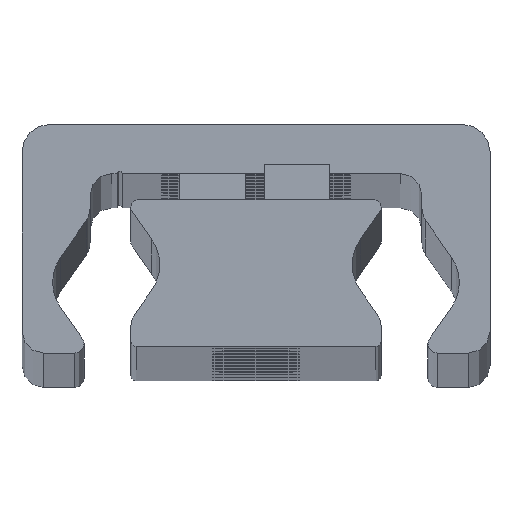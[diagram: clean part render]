
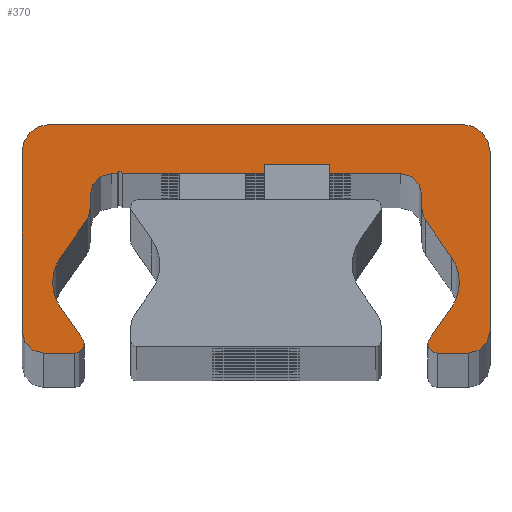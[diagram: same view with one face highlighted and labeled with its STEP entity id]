
A CAD part, top view. The second image highlights one B-rep face of the part: STEP entity #370.
In plain terms, the highlighted planar face has unit normal (0, 0, 1).
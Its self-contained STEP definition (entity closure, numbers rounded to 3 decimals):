
#370=ADVANCED_FACE('',(#1080),#1081,.T.);
#1080=FACE_OUTER_BOUND('',#1791,.T.);
#1081=PLANE('',#1792);
#1791=EDGE_LOOP('',(#4162,#4163,#4164,#4165,#4166,#4167,#4168,#4169,#4170,#4171,#4172,#4173,#4174,#4175,#4176,#4177,#4178,#4179,#4180,#4181,#4182,#4183,#4184,#4185,#4186,#4187,#4188,#4189,#4190,#4191));
#1792=AXIS2_PLACEMENT_3D('',#4192,#4193,#4194);
#4162=ORIENTED_EDGE('',*,*,#4649,.F.);
#4163=ORIENTED_EDGE('',*,*,#4982,.F.);
#4164=ORIENTED_EDGE('',*,*,#4635,.F.);
#4165=ORIENTED_EDGE('',*,*,#4981,.F.);
#4166=ORIENTED_EDGE('',*,*,#4977,.F.);
#4167=ORIENTED_EDGE('',*,*,#4974,.F.);
#4168=ORIENTED_EDGE('',*,*,#4971,.F.);
#4169=ORIENTED_EDGE('',*,*,#4968,.F.);
#4170=ORIENTED_EDGE('',*,*,#4965,.F.);
#4171=ORIENTED_EDGE('',*,*,#4962,.F.);
#4172=ORIENTED_EDGE('',*,*,#4959,.F.);
#4173=ORIENTED_EDGE('',*,*,#4956,.F.);
#4174=ORIENTED_EDGE('',*,*,#4953,.F.);
#4175=ORIENTED_EDGE('',*,*,#4950,.F.);
#4176=ORIENTED_EDGE('',*,*,#4641,.F.);
#4177=ORIENTED_EDGE('',*,*,#4948,.F.);
#4178=ORIENTED_EDGE('',*,*,#4643,.F.);
#4179=ORIENTED_EDGE('',*,*,#4947,.F.);
#4180=ORIENTED_EDGE('',*,*,#4943,.F.);
#4181=ORIENTED_EDGE('',*,*,#4940,.F.);
#4182=ORIENTED_EDGE('',*,*,#4937,.F.);
#4183=ORIENTED_EDGE('',*,*,#4934,.F.);
#4184=ORIENTED_EDGE('',*,*,#4931,.F.);
#4185=ORIENTED_EDGE('',*,*,#4928,.F.);
#4186=ORIENTED_EDGE('',*,*,#4925,.F.);
#4187=ORIENTED_EDGE('',*,*,#4922,.F.);
#4188=ORIENTED_EDGE('',*,*,#4919,.F.);
#4189=ORIENTED_EDGE('',*,*,#4916,.F.);
#4190=ORIENTED_EDGE('',*,*,#4913,.F.);
#4191=ORIENTED_EDGE('',*,*,#4910,.F.);
#4192=CARTESIAN_POINT('',(-0.023,14.187,882.0));
#4193=DIRECTION('',(0.0,0.0,1.0));
#4194=DIRECTION('',(1.0,0.0,0.0));
#4635=EDGE_CURVE('',#5630,#5633,#5634,.T.);
#4641=EDGE_CURVE('',#5643,#5639,#5645,.T.);
#4643=EDGE_CURVE('',#5646,#5649,#5650,.T.);
#4649=EDGE_CURVE('',#5659,#5655,#5661,.T.);
#4910=EDGE_CURVE('',#5655,#6080,#6081,.T.);
#4913=EDGE_CURVE('',#6080,#6085,#6086,.T.);
#4916=EDGE_CURVE('',#6085,#6090,#6091,.T.);
#4919=EDGE_CURVE('',#6090,#6095,#6096,.T.);
#4922=EDGE_CURVE('',#6095,#6100,#6101,.T.);
#4925=EDGE_CURVE('',#6100,#6105,#6106,.T.);
#4928=EDGE_CURVE('',#6105,#6110,#6111,.T.);
#4931=EDGE_CURVE('',#6110,#6115,#6116,.T.);
#4934=EDGE_CURVE('',#6115,#6120,#6121,.T.);
#4937=EDGE_CURVE('',#6120,#6125,#6126,.T.);
#4940=EDGE_CURVE('',#6125,#6130,#6131,.T.);
#4943=EDGE_CURVE('',#6130,#6135,#6136,.T.);
#4947=EDGE_CURVE('',#6135,#5646,#6141,.T.);
#4948=EDGE_CURVE('',#5649,#5643,#6142,.T.);
#4950=EDGE_CURVE('',#5639,#6144,#6145,.T.);
#4953=EDGE_CURVE('',#6144,#6149,#6150,.T.);
#4956=EDGE_CURVE('',#6149,#6154,#6155,.T.);
#4959=EDGE_CURVE('',#6154,#6159,#6160,.T.);
#4962=EDGE_CURVE('',#6159,#6164,#6165,.T.);
#4965=EDGE_CURVE('',#6164,#6169,#6170,.T.);
#4968=EDGE_CURVE('',#6169,#6174,#6175,.T.);
#4971=EDGE_CURVE('',#6174,#6179,#6180,.T.);
#4974=EDGE_CURVE('',#6179,#6184,#6185,.T.);
#4977=EDGE_CURVE('',#6184,#6189,#6190,.T.);
#4981=EDGE_CURVE('',#6189,#5630,#6195,.T.);
#4982=EDGE_CURVE('',#5633,#5659,#6196,.T.);
#5630=VERTEX_POINT('',#7042);
#5633=VERTEX_POINT('',#7046);
#5634=CIRCLE('',#7047,0.85);
#5639=VERTEX_POINT('',#7053);
#5643=VERTEX_POINT('',#7058);
#5645=CIRCLE('',#7061,0.85);
#5646=VERTEX_POINT('',#7062);
#5649=VERTEX_POINT('',#7066);
#5650=CIRCLE('',#7067,4.);
#5655=VERTEX_POINT('',#7073);
#5659=VERTEX_POINT('',#7078);
#5661=CIRCLE('',#7081,4.);
#6080=VERTEX_POINT('',#7618);
#6081=CIRCLE('',#7619,4.);
#6085=VERTEX_POINT('',#7624);
#6086=LINE('',#7625,#7626);
#6090=VERTEX_POINT('',#7632);
#6091=CIRCLE('',#7633,2.);
#6095=VERTEX_POINT('',#7638);
#6096=LINE('',#7639,#7640);
#6100=VERTEX_POINT('',#7646);
#6101=CIRCLE('',#7647,2.0);
#6105=VERTEX_POINT('',#7652);
#6106=LINE('',#7653,#7654);
#6110=VERTEX_POINT('',#7660);
#6111=CIRCLE('',#7661,0.25);
#6115=VERTEX_POINT('',#7666);
#6116=LINE('',#7667,#7668);
#6120=VERTEX_POINT('',#7674);
#6121=CIRCLE('',#7675,2.0);
#6125=VERTEX_POINT('',#7680);
#6126=LINE('',#7681,#7682);
#6130=VERTEX_POINT('',#7688);
#6131=CIRCLE('',#7689,2.0);
#6135=VERTEX_POINT('',#7694);
#6136=LINE('',#7695,#7696);
#6141=CIRCLE('',#7703,4.);
#6142=LINE('',#7704,#7705);
#6144=VERTEX_POINT('',#7708);
#6145=CIRCLE('',#7709,0.85);
#6149=VERTEX_POINT('',#7714);
#6150=LINE('',#7715,#7716);
#6154=VERTEX_POINT('',#7722);
#6155=CIRCLE('',#7723,2.);
#6159=VERTEX_POINT('',#7728);
#6160=LINE('',#7729,#7730);
#6164=VERTEX_POINT('',#7736);
#6165=CIRCLE('',#7737,2.5);
#6169=VERTEX_POINT('',#7742);
#6170=LINE('',#7743,#7744);
#6174=VERTEX_POINT('',#7750);
#6175=CIRCLE('',#7751,2.5);
#6179=VERTEX_POINT('',#7756);
#6180=LINE('',#7757,#7758);
#6184=VERTEX_POINT('',#7764);
#6185=CIRCLE('',#7765,2.);
#6189=VERTEX_POINT('',#7770);
#6190=LINE('',#7771,#7772);
#6195=CIRCLE('',#7779,0.85);
#6196=LINE('',#7780,#7781);
#7042=CARTESIAN_POINT('',(15.8,1.859,882.0));
#7046=CARTESIAN_POINT('',(15.922,2.298,882.0));
#7047=AXIS2_PLACEMENT_3D('',#8607,#8608,#8609);
#7053=CARTESIAN_POINT('',(-15.8,1.859,882.0));
#7058=CARTESIAN_POINT('',(-15.922,2.298,882.0));
#7061=AXIS2_PLACEMENT_3D('',#8619,#8620,#8621);
#7062=CARTESIAN_POINT('',(-18.688,7.509,882.0));
#7066=CARTESIAN_POINT('',(-17.964,5.214,882.0));
#7067=AXIS2_PLACEMENT_3D('',#8623,#8624,#8625);
#7073=CARTESIAN_POINT('',(18.688,7.509,882.0));
#7078=CARTESIAN_POINT('',(17.964,5.214,882.0));
#7081=AXIS2_PLACEMENT_3D('',#8635,#8636,#8637);
#7618=CARTESIAN_POINT('',(17.964,9.803,882.0));
#7619=AXIS2_PLACEMENT_3D('',#9182,#9183,#9184);
#7624=CARTESIAN_POINT('',(15.612,13.163,882.0));
#7625=CARTESIAN_POINT('',(15.612,13.163,882.0));
#7626=VECTOR('',#9189,1.0);
#7632=CARTESIAN_POINT('',(15.25,14.31,882.0));
#7633=AXIS2_PLACEMENT_3D('',#9192,#9193,#9194);
#7638=CARTESIAN_POINT('',(15.25,15.509,882.0));
#7639=CARTESIAN_POINT('',(15.25,15.509,882.0));
#7640=VECTOR('',#9199,1.0);
#7646=CARTESIAN_POINT('',(13.25,17.509,882.0));
#7647=AXIS2_PLACEMENT_3D('',#9202,#9203,#9204);
#7652=CARTESIAN_POINT('',(-12.25,17.509,882.0));
#7653=CARTESIAN_POINT('',(-12.25,17.509,882.0));
#7654=VECTOR('',#9209,1.0);
#7660=CARTESIAN_POINT('',(-12.75,17.509,882.0));
#7661=AXIS2_PLACEMENT_3D('',#9212,#9213,#9214);
#7666=CARTESIAN_POINT('',(-13.25,17.509,882.0));
#7667=CARTESIAN_POINT('',(-13.25,17.509,882.0));
#7668=VECTOR('',#9219,1.0);
#7674=CARTESIAN_POINT('',(-15.25,15.509,882.0));
#7675=AXIS2_PLACEMENT_3D('',#9222,#9223,#9224);
#7680=CARTESIAN_POINT('',(-15.25,14.31,882.0));
#7681=CARTESIAN_POINT('',(-15.25,14.31,882.0));
#7682=VECTOR('',#9229,1.0);
#7688=CARTESIAN_POINT('',(-15.612,13.163,882.0));
#7689=AXIS2_PLACEMENT_3D('',#9232,#9233,#9234);
#7694=CARTESIAN_POINT('',(-17.964,9.803,882.0));
#7695=CARTESIAN_POINT('',(-17.964,9.803,882.0));
#7696=VECTOR('',#9239,1.);
#7703=AXIS2_PLACEMENT_3D('',#9245,#9246,#9247);
#7704=CARTESIAN_POINT('',(-15.922,2.298,882.0));
#7705=VECTOR('',#9248,1.0);
#7708=CARTESIAN_POINT('',(-16.65,1.009,882.0));
#7709=AXIS2_PLACEMENT_3D('',#9250,#9251,#9252);
#7714=CARTESIAN_POINT('',(-19.5,1.009,882.0));
#7715=CARTESIAN_POINT('',(-19.5,1.009,882.0));
#7716=VECTOR('',#9257,1.0);
#7722=CARTESIAN_POINT('',(-21.5,3.009,882.0));
#7723=AXIS2_PLACEMENT_3D('',#9260,#9261,#9262);
#7728=CARTESIAN_POINT('',(-21.5,19.509,882.0));
#7729=CARTESIAN_POINT('',(-21.5,19.509,882.0));
#7730=VECTOR('',#9267,1.0);
#7736=CARTESIAN_POINT('',(-19.0,22.009,882.0));
#7737=AXIS2_PLACEMENT_3D('',#9270,#9271,#9272);
#7742=CARTESIAN_POINT('',(19.0,22.009,882.0));
#7743=CARTESIAN_POINT('',(19.0,22.009,882.0));
#7744=VECTOR('',#9277,1.0);
#7750=CARTESIAN_POINT('',(21.5,19.509,882.0));
#7751=AXIS2_PLACEMENT_3D('',#9280,#9281,#9282);
#7756=CARTESIAN_POINT('',(21.5,3.009,882.0));
#7757=CARTESIAN_POINT('',(21.5,3.009,882.0));
#7758=VECTOR('',#9287,1.0);
#7764=CARTESIAN_POINT('',(19.5,1.009,882.0));
#7765=AXIS2_PLACEMENT_3D('',#9290,#9291,#9292);
#7770=CARTESIAN_POINT('',(16.65,1.009,882.0));
#7771=CARTESIAN_POINT('',(16.65,1.009,882.0));
#7772=VECTOR('',#9297,1.0);
#7779=AXIS2_PLACEMENT_3D('',#9303,#9304,#9305);
#7780=CARTESIAN_POINT('',(17.964,5.214,882.0));
#7781=VECTOR('',#9306,1.0);
#8607=CARTESIAN_POINT('',(16.65,1.859,882.0));
#8608=DIRECTION('',(0.0,0.0,-1.0));
#8609=DIRECTION('',(1.0,0.0,0.0));
#8619=CARTESIAN_POINT('',(-16.65,1.859,882.0));
#8620=DIRECTION('',(0.0,0.0,-1.0));
#8621=DIRECTION('',(1.0,0.0,0.0));
#8623=CARTESIAN_POINT('',(-14.688,7.509,882.0));
#8624=DIRECTION('',(0.0,0.0,1.0));
#8625=DIRECTION('',(1.0,0.0,0.0));
#8635=CARTESIAN_POINT('',(14.688,7.509,882.0));
#8636=DIRECTION('',(0.0,0.0,1.0));
#8637=DIRECTION('',(1.0,0.0,0.0));
#9182=CARTESIAN_POINT('',(14.688,7.509,882.0));
#9183=DIRECTION('',(0.0,0.0,1.0));
#9184=DIRECTION('',(1.0,0.0,0.0));
#9189=DIRECTION('',(-0.574,0.819,0.0));
#9192=CARTESIAN_POINT('',(17.25,14.31,882.0));
#9193=DIRECTION('',(0.0,0.0,-1.0));
#9194=DIRECTION('',(1.0,0.0,0.0));
#9199=DIRECTION('',(0.0,1.0,0.0));
#9202=CARTESIAN_POINT('',(13.25,15.509,882.0));
#9203=DIRECTION('',(0.0,0.0,1.0));
#9204=DIRECTION('',(1.0,0.0,0.0));
#9209=DIRECTION('',(-1.0,-0.0,-0.0));
#9212=CARTESIAN_POINT('',(-12.5,17.509,882.0));
#9213=DIRECTION('',(0.0,0.0,1.0));
#9214=DIRECTION('',(1.0,0.0,0.0));
#9219=DIRECTION('',(-1.0,-0.0,-0.0));
#9222=CARTESIAN_POINT('',(-13.25,15.509,882.0));
#9223=DIRECTION('',(0.0,0.0,1.0));
#9224=DIRECTION('',(1.0,0.0,0.0));
#9229=DIRECTION('',(-0.0,-1.0,-0.0));
#9232=CARTESIAN_POINT('',(-17.25,14.31,882.0));
#9233=DIRECTION('',(0.0,0.0,-1.0));
#9234=DIRECTION('',(1.0,0.0,0.0));
#9239=DIRECTION('',(-0.574,-0.819,-0.0));
#9245=CARTESIAN_POINT('',(-14.688,7.509,882.0));
#9246=DIRECTION('',(0.0,0.0,1.0));
#9247=DIRECTION('',(1.0,0.0,0.0));
#9248=DIRECTION('',(0.574,-0.819,0.0));
#9250=CARTESIAN_POINT('',(-16.65,1.859,882.0));
#9251=DIRECTION('',(0.0,0.0,-1.0));
#9252=DIRECTION('',(1.0,0.0,0.0));
#9257=DIRECTION('',(-1.0,-0.0,-0.0));
#9260=CARTESIAN_POINT('',(-19.5,3.009,882.0));
#9261=DIRECTION('',(0.0,0.0,-1.0));
#9262=DIRECTION('',(1.0,0.0,0.0));
#9267=DIRECTION('',(0.0,1.0,0.0));
#9270=CARTESIAN_POINT('',(-19.0,19.509,882.0));
#9271=DIRECTION('',(0.0,0.0,-1.0));
#9272=DIRECTION('',(1.0,0.0,0.0));
#9277=DIRECTION('',(1.0,0.0,0.0));
#9280=CARTESIAN_POINT('',(19.0,19.509,882.0));
#9281=DIRECTION('',(0.0,0.0,-1.0));
#9282=DIRECTION('',(1.0,0.0,0.0));
#9287=DIRECTION('',(-0.0,-1.0,-0.0));
#9290=CARTESIAN_POINT('',(19.5,3.009,882.0));
#9291=DIRECTION('',(0.0,0.0,-1.0));
#9292=DIRECTION('',(1.0,0.0,0.0));
#9297=DIRECTION('',(-1.0,-0.0,-0.0));
#9303=CARTESIAN_POINT('',(16.65,1.859,882.0));
#9304=DIRECTION('',(0.0,0.0,-1.0));
#9305=DIRECTION('',(1.0,0.0,0.0));
#9306=DIRECTION('',(0.574,0.819,0.0));
